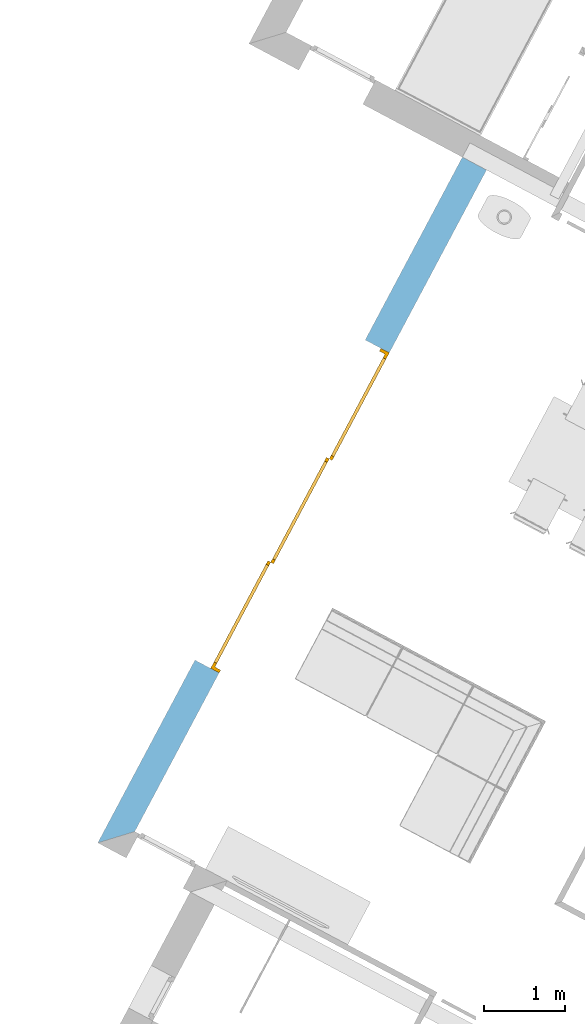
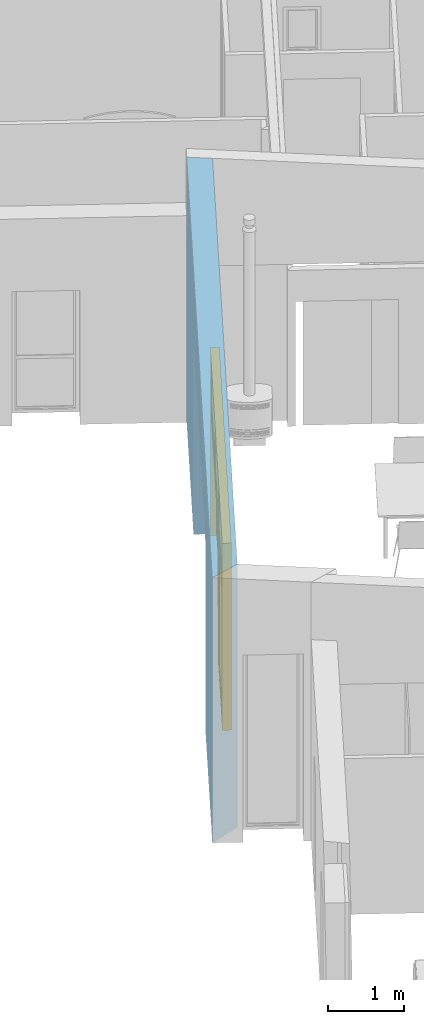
# One storey, part 11 of 27: 1 door, 1 opening, plus 1 element that does not belong to this part.
"""IFC2X3 building model written with IfcOpenShell, lengths in metres."""

import ifcopenshell
import ifcopenshell.guid

model = None  # the IFC model being written
_history = None  # IfcOwnerHistory: only IFC2X3 demands one
_inside = {}  # id of a spatial element -> (the spatial element, [elements in it])
_under = {}  # id of a project, library or spatial element -> (it, [spatial elements below it])
_declared = {}  # id of a project -> (the project, [libraries it declares])
_typed = {}  # id of a type object -> (the type object, [elements of that type])
_made_of = {}  # id of a material, layer set ... -> (it, [elements and type objects made of it])


def new_model(schema):
    """Start an empty IFC model of exactly this schema.

    Asked for "IFC4X3", IfcOpenShell would pick the latest addendum, in which some entities
    have other attributes; the version numbers below select the first issue.
    IFC2X3 requires an IfcOwnerHistory on every rooted entity: one is made here for all.
    """
    global model, _history
    if schema == "IFC4X3":
        model = ifcopenshell.file(schema_version=(4, 3, 0, 0))
    else:
        model = ifcopenshell.file(schema=schema)
    _inside.clear()
    _under.clear()
    _declared.clear()
    _typed.clear()
    _made_of.clear()
    _history = None
    if model.schema == "IFC2X3":
        org = make("IfcOrganization", Name="unknown")
        user = make(
            "IfcPersonAndOrganization",
            ThePerson=make("IfcPerson", FamilyName="unknown"),
            TheOrganization=org,
        )
        app = make(
            "IfcApplication",
            ApplicationDeveloper=org,
            Version="unknown",
            ApplicationFullName="unknown",
            ApplicationIdentifier="unknown",
        )
        _history = make(
            "IfcOwnerHistory",
            OwningUser=user,
            OwningApplication=app,
            ChangeAction="ADDED",
            CreationDate=0,
        )
    return model


def make(cls, **values):
    """One entity of the class cls with the attributes given. An attribute that is None is left unset."""
    return model.create_entity(
        cls, **{name: value for name, value in values.items() if value is not None}
    )


def entity(cls, *values):
    """Any entity or typed value of the class cls, its attributes in the order of the schema. None: left unset."""
    e = model.create_entity(cls)
    for i, value in enumerate(values):
        if value is not None:
            e[i] = value
    return e


def rooted(cls, **values):
    """An entity with a GlobalId (a new one), such as an element, a storey or a relation."""
    return make(cls, GlobalId=ifcopenshell.guid.new(), OwnerHistory=_history, **values)


def si_unit(unit_type, name, prefix=None):
    """IfcSIUnit, for example si_unit("LENGTHUNIT", "METRE", prefix="MILLI")."""
    return make("IfcSIUnit", UnitType=unit_type, Prefix=prefix, Name=name)


def converted_unit(unit_type, name, factor, base, dimensions=None, offset=None):
    """IfcConversionBasedUnit, such as the inch: factor (a typed value) times the base unit."""
    return make(
        "IfcConversionBasedUnit"
        if offset is None
        else "IfcConversionBasedUnitWithOffset",
        ConversionOffset=offset,
        Dimensions=None
        if dimensions is None
        else entity("IfcDimensionalExponents", *dimensions),
        UnitType=unit_type,
        Name=name,
        ConversionFactor=make(
            "IfcMeasureWithUnit", ValueComponent=factor, UnitComponent=base
        ),
    )


def derived_unit(unit_type, elements):
    """IfcDerivedUnit: a product of units, each with its exponent."""
    return make(
        "IfcDerivedUnit",
        Elements=[
            make("IfcDerivedUnitElement", Unit=unit, Exponent=power)
            for unit, power in elements
        ],
        UnitType=unit_type,
    )


def money_unit(currency):
    """IfcMonetaryUnit."""
    return make("IfcMonetaryUnit", Currency=currency)


def assignment(units):
    """IfcUnitAssignment: the units of a project."""
    return None if units is None else make("IfcUnitAssignment", Units=units)


def point(xyz):
    """IfcCartesianPoint."""
    return None if xyz is None else make("IfcCartesianPoint", Coordinates=xyz)


def direction(xyz):
    """IfcDirection."""
    return None if xyz is None else make("IfcDirection", DirectionRatios=xyz)


def frame(location, z_axis=None, x_axis=None):
    """IfcAxis2Placement3D, a coordinate frame: its origin and axes. An axis left out is left unset."""
    return make(
        "IfcAxis2Placement3D",
        Location=point(location),
        Axis=direction(z_axis),
        RefDirection=direction(x_axis),
    )


def frame_2d(location, x_axis=None):
    """IfcAxis2Placement2D, a coordinate frame in the plane: its origin and x axis."""
    return make(
        "IfcAxis2Placement2D", Location=point(location), RefDirection=direction(x_axis)
    )


def origin_with_axes():
    """The frame at (0, 0, 0) with the z axis (0, 0, 1) and the x axis (1, 0, 0) written out."""
    return frame((0.0, 0.0, 0.0), z_axis=(0.0, 0.0, 1.0), x_axis=(1.0, 0.0, 0.0))


def origin_2d_with_axis():
    """The frame at (0, 0) in the plane with the x axis (1, 0) written out."""
    return frame_2d((0.0, 0.0), x_axis=(1.0, 0.0))


def place(relative_to, where):
    """IfcLocalPlacement: puts the frame where relative to a parent placement (None: the world)."""
    return make(
        "IfcLocalPlacement", PlacementRelTo=relative_to, RelativePlacement=where
    )


def context(
    kind, dimensions, precision=None, world=None, true_north=None, identifier=None
):
    """IfcGeometricRepresentationContext, for example the 3D "Model" context."""
    return make(
        "IfcGeometricRepresentationContext",
        ContextIdentifier=identifier,
        ContextType=kind,
        CoordinateSpaceDimension=dimensions,
        Precision=precision,
        WorldCoordinateSystem=world,
        TrueNorth=true_north,
    )


def subcontext(parent, identifier, kind, view, scale=None):
    """IfcGeometricRepresentationSubContext, for example "Body" below "Model"."""
    return make(
        "IfcGeometricRepresentationSubContext",
        ContextIdentifier=identifier,
        ContextType=kind,
        ParentContext=parent,
        TargetScale=scale,
        TargetView=view,
    )


def project(units=None, contexts=None):
    """IfcProject with its units and contexts."""
    return rooted(
        "IfcProject",
        Name="project",
        RepresentationContexts=contexts,
        UnitsInContext=assignment(units),
    )


def spatial(cls, under=None, at=None, **own):
    """A site, building, storey or space (cls), placed at a placement, below another one or the project."""
    s = rooted(cls, ObjectPlacement=at, **own)
    if under is not None:
        _under.setdefault(under.id(), (under, []))[1].append(s)
    return s


def polyline(points):
    """IfcPolyline through the points."""
    return make("IfcPolyline", Points=[point(p) for p in points])


def profile(cls, at=None, kind="AREA", **sizes):
    """A parametric profile (cls). Its sizes go by their IFC names, for example OverallWidth=200.0."""
    return make(cls, ProfileType=kind, Position=at, **sizes)


def rectangle(**sizes):
    """IfcRectangleProfileDef."""
    return profile("IfcRectangleProfileDef", **sizes)


def outline(outer, holes=None, kind="AREA"):
    """IfcArbitraryClosedProfileDef: a profile drawn as a closed curve; with holes, ...WithVoids."""
    if holes is None:
        return make("IfcArbitraryClosedProfileDef", ProfileType=kind, OuterCurve=outer)
    return make(
        "IfcArbitraryProfileDefWithVoids",
        ProfileType=kind,
        OuterCurve=outer,
        InnerCurves=holes,
    )


def extrude(swept, where, along, depth):
    """IfcExtrudedAreaSolid: the profile swept, set in the frame where, extruded along a direction by depth."""
    return make(
        "IfcExtrudedAreaSolid",
        SweptArea=swept,
        Position=where,
        ExtrudedDirection=direction(along),
        Depth=depth,
    )


def clip(a, b, op="DIFFERENCE"):
    """IfcBooleanClippingResult: the solid a cut by the half space b."""
    return make(
        "IfcBooleanClippingResult", Operator=op, FirstOperand=a, SecondOperand=b
    )


def halfspace(plane, agree):
    """IfcHalfSpaceSolid: all space on one side of the plane z = 0 of the frame plane."""
    return make(
        "IfcHalfSpaceSolid",
        BaseSurface=make("IfcPlane", Position=plane),
        AgreementFlag=agree,
    )


def faces_of(points, faces, orient=None, outer=None):
    """IfcFace entities. A face is a list of loops; a loop is a list of indices into points, from 0.

    orient and outer hold one flag for each loop. By default every Orientation is true, the
    first loop of a face is its IfcFaceOuterBound and the others are IfcFaceBound.
    """
    made = []
    for i, loops in enumerate(faces):
        bounds = []
        for j, loop in enumerate(loops):
            is_outer = j == 0 if outer is None else outer[i][j]
            bounds.append(
                make(
                    "IfcFaceOuterBound" if is_outer else "IfcFaceBound",
                    Bound=make("IfcPolyLoop", Polygon=[points[k] for k in loop]),
                    Orientation=True if orient is None else orient[i][j],
                )
            )
        made.append(make("IfcFace", Bounds=bounds))
    return made


def open_shell(faces, orient=None, outer=None):
    """The faces of one IfcOpenShell. surface_model builds it on its shared points."""
    return ("IfcOpenShell", faces, orient, outer)


def faceted_brep(points, faces, orient=None, outer=None, voids=None):
    """IfcFacetedBrep: a solid bounded by flat faces; with voids (closed shells), ...WithVoids."""
    shared = [point(p) for p in points]
    hull = make("IfcClosedShell", CfsFaces=faces_of(shared, faces, orient, outer))
    if voids is None:
        return make("IfcFacetedBrep", Outer=hull)
    return make(
        "IfcFacetedBrepWithVoids",
        Outer=hull,
        Voids=[
            make(cls, CfsFaces=faces_of(shared, fs, o, b)) for cls, fs, o, b in voids
        ],
    )


def surface_model(cls, points, shells):
    """IfcFaceBasedSurfaceModel or IfcShellBasedSurfaceModel (cls): surfaces that need not close."""
    shared = [point(p) for p in points]
    made = [make(c, CfsFaces=faces_of(shared, fs, o, b)) for c, fs, o, b in shells]
    if cls == "IfcFaceBasedSurfaceModel":
        return make(cls, FbsmFaces=made)
    return make(cls, SbsmBoundary=made)


def shape(context_of_items, identifier, shape_type, items):
    """IfcShapeRepresentation: the items that make up one representation, for example the "Body"."""
    return make(
        "IfcShapeRepresentation",
        ContextOfItems=context_of_items,
        RepresentationIdentifier=identifier,
        RepresentationType=shape_type,
        Items=items,
    )


def material(Name=None, Category=None):
    """IfcMaterial."""
    return make("IfcMaterial", Name=Name, Category=Category)


def layer(
    of_material, thickness, ventilated=None, Name=None, Category=None, Priority=None
):
    """IfcMaterialLayer: one layer of a wall or slab, of a material (None: an air gap)."""
    return make(
        "IfcMaterialLayer",
        Material=of_material,
        LayerThickness=thickness,
        IsVentilated=ventilated,
        Name=Name,
        Category=Category,
        Priority=Priority,
    )


def layer_set(layers, Name=None):
    """IfcMaterialLayerSet."""
    return make("IfcMaterialLayerSet", MaterialLayers=layers, LayerSetName=Name)


def layer_usage(for_layer_set, set_direction, sense, offset, extent=None):
    """IfcMaterialLayerSetUsage: how a layer set lies in its element."""
    return make(
        "IfcMaterialLayerSetUsage",
        ForLayerSet=for_layer_set,
        LayerSetDirection=set_direction,
        DirectionSense=sense,
        OffsetFromReferenceLine=offset,
        ReferenceExtent=extent,
    )


def made_of(thing, what):
    """Note that an element or type object is made of a material, layer set ...; save() writes the relation."""
    if what is not None:
        _made_of.setdefault(what.id(), (what, []))[1].append(thing)
    return thing


def type_object(cls, material=None, **own):
    """A type object (cls), such as IfcWallType, which elements share."""
    return made_of(rooted(cls, **own), material)


def element(
    cls,
    number,
    at=None,
    inside=None,
    cuts=None,
    type_object=None,
    material=None,
    context=None,
    identifier="Body",
    shape_type=None,
    held_by="IfcProductDefinitionShape",
    body=None,
    shapes=None,
    **own,
):
    """One element of the class cls, such as IfcWall. Its Tag is "e" and its number.

    at: its placement. inside: the storey or other place that contains it. cuts: it is an
    opening in that element (IfcRelVoidsElement). A single representation is given by context,
    identifier, shape_type and body (its items); several are given by shapes. held_by: the class
    of the entity that holds the representations. save() writes the other relations.
    """
    e = rooted(cls, Tag="e%d" % number, ObjectPlacement=at, **own)
    if body is not None:
        shapes = [shape(context, identifier, shape_type, body)]
    if shapes is not None:
        e.Representation = make(held_by, Representations=shapes)
    if inside is not None:
        _inside.setdefault(inside.id(), (inside, []))[1].append(e)
    if cuts is not None:
        rooted(
            "IfcRelVoidsElement", RelatingBuildingElement=cuts, RelatedOpeningElement=e
        )
    if type_object is not None:
        _typed.setdefault(type_object.id(), (type_object, []))[1].append(e)
    return made_of(e, material)


def fill(opening, filler):
    """IfcRelFillsElement: the door or window that sits in an opening."""
    return rooted(
        "IfcRelFillsElement",
        RelatingOpeningElement=opening,
        RelatedBuildingElement=filler,
    )


def aggregate(whole, parts):
    """IfcRelAggregates: a whole, such as a stair, and the parts it consists of."""
    return rooted("IfcRelAggregates", RelatingObject=whole, RelatedObjects=parts)


def save(model, path):
    """Write the relations noted so far, then the file.

    IfcRelAggregates (storeys below a building ...), IfcRelContainedInSpatialStructure (elements
    in a storey), IfcRelDefinesByType, IfcRelAssociatesMaterial and IfcRelDeclares: one each for
    every whole, place, type object, material and project.
    """
    for whole, parts in _under.values():
        aggregate(whole, parts)
    for where, things in _inside.values():
        rooted(
            "IfcRelContainedInSpatialStructure",
            RelatedElements=things,
            RelatingStructure=where,
        )
    for kind, things in _typed.values():
        rooted("IfcRelDefinesByType", RelatedObjects=things, RelatingType=kind)
    for what, things in _made_of.values():
        rooted("IfcRelAssociatesMaterial", RelatedObjects=things, RelatingMaterial=what)
    for by, libraries in _declared.values():
        rooted("IfcRelDeclares", RelatingContext=by, RelatedDefinitions=libraries)
    model.write(path)


model = new_model("IFC2X3")

# Units and contexts
model_context = context("Model", 3, precision=1e-05, world=origin_with_axes(), true_north=direction((0.0, 1.0)))
body_context = subcontext(model_context, "Body", "Model", "MODEL_VIEW")
ifc_project = project(units=[si_unit("LENGTHUNIT", "METRE"), si_unit("AREAUNIT", "SQUARE_METRE"), si_unit("VOLUMEUNIT", "CUBIC_METRE"), converted_unit("PLANEANGLEUNIT", "DEGREE", entity("IfcPlaneAngleMeasure", 0.0174532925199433), si_unit("PLANEANGLEUNIT", "RADIAN"), dimensions=[0, 0, 0, 0, 0, 0, 0]), money_unit("CHF"), converted_unit("TIMEUNIT", "Year", entity("IfcTimeMeasure", 31557600.0), si_unit("TIMEUNIT", "SECOND"), dimensions=[0, 0, 1, 0, 0, 0, 0]), si_unit("MASSUNIT", "GRAM", prefix="KILO"), si_unit("THERMODYNAMICTEMPERATUREUNIT", "DEGREE_CELSIUS"), si_unit("LUMINOUSINTENSITYUNIT", "LUMEN"), si_unit("ENERGYUNIT", "JOULE", prefix="MEGA"), derived_unit("THERMALCONDUCTANCEUNIT", [(si_unit("POWERUNIT", "WATT"), 1), (si_unit("LENGTHUNIT", "METRE"), -1), (si_unit("THERMODYNAMICTEMPERATUREUNIT", "KELVIN"), -1)]), derived_unit("SPECIFICHEATCAPACITYUNIT", [(si_unit("ENERGYUNIT", "JOULE"), 1), (si_unit("MASSUNIT", "GRAM", prefix="KILO"), -1), (si_unit("THERMODYNAMICTEMPERATUREUNIT", "KELVIN"), -1)]), derived_unit("MASSDENSITYUNIT", [(si_unit("MASSUNIT", "GRAM", prefix="KILO"), 1), (si_unit("VOLUMEUNIT", "CUBIC_METRE"), -1)])], contexts=[model_context])

# Site, building, storey
site_placement = place(None, frame((0.0, 0.0, 0.0), z_axis=(0.0, 0.0, 1.0), x_axis=(-0.4694715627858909, -0.8829475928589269, 0.0)))
site = spatial("IfcSite", under=ifc_project, at=site_placement, Name="Site", CompositionType="ELEMENT")
building_placement = place(site_placement, origin_with_axes())
building = spatial("IfcBuilding", under=site, at=building_placement, Name="Bâtiment", CompositionType="ELEMENT")
storey_placement = place(building_placement, origin_with_axes())
storey = spatial("IfcBuildingStorey", under=building, at=storey_placement, Name="RDC", CompositionType="ELEMENT", Elevation=0.0)

# Wall, opening, door
ifc_material_1 = material(Name="Maçonnerie 290464332")
ifc_layer_1 = layer(ifc_material_1, 0.2, ventilated="UNKNOWN")
ifc_material_2 = material(Name="Isolation 272048125")
ifc_layer_2 = layer(ifc_material_2, 0.14, ventilated="UNKNOWN")
ifc_layer_set = layer_set([ifc_layer_1, ifc_layer_2], Name="MUR EXT 34")
ifc_layer_usage = layer_usage(ifc_layer_set, "AXIS2", "POSITIVE", 0.0)
wall_type = type_object("IfcWallType", Name="MUR EXT 34 340", PredefinedType="NOTDEFINED")
wall_placement = place(storey_placement, frame((133.8895710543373, -837.1945991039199, 0.0), z_axis=(0.0, 0.0, 1.0), x_axis=(1.0, 0.0, 0.0)))
wall = element("IfcWallStandardCase", 1, at=wall_placement, inside=storey, type_object=wall_type, material=ifc_layer_usage, Name="Mur-392", context=body_context, shape_type="Clipping", body=[
    clip(extrude(outline(polyline([(0.0, 0.0), (9.640000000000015, 0.0), (9.300000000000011, 0.3400000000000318), (0.0, 0.3400000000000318), (0.0, 0.0)])), origin_with_axes(), (0.0, 0.0, 1.0), 5.0), halfspace(frame((0.0, 0.3379968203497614, 4.224960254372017), z_axis=(0.0, -0.07974522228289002, -0.9968152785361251), x_axis=(0.0, 0.9968152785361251, -0.07974522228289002)), True)),
])
opening_placement = place(wall_placement, frame((4.819999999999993, 0.0, 0.0), z_axis=(0.0, 0.0, 1.0), x_axis=(1.0, 0.0, 0.0)))
opening = element("IfcOpeningElement", 2, at=opening_placement, cuts=wall, Name="porte 77", context=body_context, shape_type="SweptSolid", body=[
    extrude(rectangle(XDim=4.5, YDim=3.0, at=origin_2d_with_axis()), frame((0.0, -0.3400000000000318, 1.5), z_axis=(0.0, -1.0, 0.0), x_axis=(-1.0, 0.0, 0.0)), (0.0, 0.0, -1.0), 1.02),
])
door_style = type_object("IfcDoorStyle", Name="Porte coulissante avec imposte 27", ConstructionType="NOTDEFINED", OperationType="USERDEFINED", ParameterTakesPrecedence=False, Sizeable=False)
door_placement = place(opening_placement, frame((-2.250000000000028, 0.0, 0.0), z_axis=(0.0, 0.0, 1.0), x_axis=(1.0, 0.0, 0.0)))
door = element("IfcDoor", 3, at=door_placement, inside=storey, type_object=door_style, Name="porte 77", OverallHeight=3.0, OverallWidth=4.5, context=body_context, shape_type="SurfaceModel", body=[
    faceted_brep([(4.5, 0.3400000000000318, 0.0), (4.5, 0.2200000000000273, 0.0), (4.460000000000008, 0.2200000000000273, 0.0), (4.460000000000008, 0.3400000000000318, 0.0), (4.5, 0.3400000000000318, 2.96), (4.5, 0.2200000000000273, 2.96), (4.460000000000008, 0.2200000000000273, 2.96), (4.460000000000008, 0.2200000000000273, 2.19), (4.460000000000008, 0.2200000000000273, 2.15), (4.460000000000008, 0.3400000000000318, 2.15), (4.460000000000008, 0.3400000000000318, 2.19), (4.460000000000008, 0.3400000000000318, 2.96)], [[[0, 1, 2, 3]], [[4, 5, 1, 0]], [[1, 5, 6, 7, 8, 2]], [[3, 2, 8, 9]], [[0, 3, 9, 10, 11, 4]], [[11, 6, 5, 4]], [[10, 7, 6, 11]], [[9, 8, 7, 10]]]),
    faceted_brep([(0.0, 0.3400000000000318, 0.0), (0.0, 0.2200000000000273, 0.0), (0.0, 0.2200000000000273, 2.96), (0.0, 0.3400000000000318, 2.96), (0.03999999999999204, 0.3400000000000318, 0.0), (0.03999999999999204, 0.2200000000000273, 0.0), (0.03999999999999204, 0.2200000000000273, 2.15), (0.03999999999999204, 0.2200000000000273, 2.19), (0.03999999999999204, 0.2200000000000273, 2.96), (0.03999999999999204, 0.3400000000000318, 2.96), (0.03999999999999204, 0.3400000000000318, 2.19), (0.03999999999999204, 0.3400000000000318, 2.15)], [[[0, 1, 2, 3]], [[4, 5, 1, 0]], [[1, 5, 6, 7, 8, 2]], [[3, 2, 8, 9]], [[0, 3, 9, 10, 11, 4]], [[11, 6, 5, 4]], [[10, 7, 6, 11]], [[9, 8, 7, 10]]]),
    faceted_brep([(4.5, 0.3400000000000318, 3.0), (4.5, 0.2200000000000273, 3.0), (4.5, 0.2200000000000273, 2.96), (4.5, 0.3400000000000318, 2.96), (0.0, 0.3400000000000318, 3.0), (0.0, 0.2200000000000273, 3.0), (0.0, 0.2200000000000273, 2.96), (0.03999999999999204, 0.2200000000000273, 2.96), (4.460000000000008, 0.2200000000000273, 2.96), (4.460000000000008, 0.3400000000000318, 2.96), (0.03999999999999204, 0.3400000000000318, 2.96), (0.0, 0.3400000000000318, 2.96)], [[[0, 1, 2, 3]], [[4, 5, 1, 0]], [[1, 5, 6, 7, 8, 2]], [[3, 2, 8, 9]], [[0, 3, 9, 10, 11, 4]], [[11, 6, 5, 4]], [[10, 7, 6, 11]], [[9, 8, 7, 10]]]),
    faceted_brep([(4.460000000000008, 0.3400000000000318, 2.19), (4.460000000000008, 0.2200000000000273, 2.19), (4.460000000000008, 0.2200000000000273, 2.15), (4.460000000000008, 0.3400000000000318, 2.15), (0.03999999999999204, 0.3400000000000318, 2.19), (0.03999999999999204, 0.2200000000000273, 2.19), (0.03999999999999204, 0.2200000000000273, 2.15), (0.03999999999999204, 0.3400000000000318, 2.15)], [[[0, 1, 2, 3]], [[4, 5, 1, 0]], [[1, 5, 6, 2]], [[3, 2, 6, 7]], [[0, 3, 7, 4]], [[7, 6, 5, 4]]]),
    faceted_brep([(0.03999999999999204, 0.3400000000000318, 0.04999999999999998), (0.09000000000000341, 0.3400000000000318, 0.04999999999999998), (0.09000000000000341, 0.3000000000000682, 0.04999999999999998), (0.03999999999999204, 0.3000000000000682, 0.04999999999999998), (0.03999999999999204, 0.3400000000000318, 2.1), (0.09000000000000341, 0.3400000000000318, 2.1), (0.09000000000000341, 0.3000000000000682, 2.1), (0.03999999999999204, 0.3000000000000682, 2.1)], [[[0, 1, 2, 3]], [[0, 4, 5, 1]], [[1, 5, 6, 2]], [[3, 2, 6, 7]], [[4, 0, 3, 7]], [[5, 4, 7, 6]]]),
    faceted_brep([(1.513333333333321, 0.3400000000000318, 0.04999999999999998), (1.513333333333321, 0.3400000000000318, 2.1), (1.513333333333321, 0.3000000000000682, 2.1), (1.513333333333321, 0.3000000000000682, 0.04999999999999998), (1.463333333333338, 0.3400000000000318, 0.04999999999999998), (1.463333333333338, 0.3400000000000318, 2.1), (1.463333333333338, 0.3000000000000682, 2.1), (1.463333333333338, 0.3000000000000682, 0.04999999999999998)], [[[0, 1, 2, 3]], [[0, 4, 5, 1]], [[1, 5, 6, 2]], [[3, 2, 6, 7]], [[4, 0, 3, 7]], [[5, 4, 7, 6]]]),
    faceted_brep([(0.03999999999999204, 0.3400000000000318, 0.0), (1.513333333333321, 0.3400000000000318, 0.0), (1.513333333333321, 0.3000000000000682, 0.0), (0.03999999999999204, 0.3000000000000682, 0.0), (0.03999999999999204, 0.3400000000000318, 0.04999999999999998), (0.09000000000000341, 0.3400000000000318, 0.04999999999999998), (1.463333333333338, 0.3400000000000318, 0.04999999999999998), (1.513333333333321, 0.3400000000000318, 0.04999999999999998), (1.513333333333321, 0.3000000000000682, 0.04999999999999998), (1.463333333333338, 0.3000000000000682, 0.04999999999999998), (0.09000000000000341, 0.3000000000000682, 0.04999999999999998), (0.03999999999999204, 0.3000000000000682, 0.04999999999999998)], [[[0, 1, 2, 3]], [[0, 4, 5, 6, 7, 1]], [[1, 7, 8, 2]], [[3, 2, 8, 9, 10, 11]], [[4, 0, 3, 11]], [[5, 4, 11, 10]], [[6, 5, 10, 9]], [[7, 6, 9, 8]]]),
    faceted_brep([(0.03999999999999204, 0.3400000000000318, 2.15), (0.03999999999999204, 0.3400000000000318, 2.1), (0.03999999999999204, 0.3000000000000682, 2.1), (0.03999999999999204, 0.3000000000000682, 2.15), (1.513333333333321, 0.3400000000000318, 2.15), (1.513333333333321, 0.3400000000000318, 2.1), (1.463333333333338, 0.3400000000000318, 2.1), (0.09000000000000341, 0.3400000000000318, 2.1), (0.09000000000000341, 0.3000000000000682, 2.1), (1.463333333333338, 0.3000000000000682, 2.1), (1.513333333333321, 0.3000000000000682, 2.1), (1.513333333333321, 0.3000000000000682, 2.15)], [[[0, 1, 2, 3]], [[0, 4, 5, 6, 7, 1]], [[1, 7, 8, 2]], [[3, 2, 8, 9, 10, 11]], [[4, 0, 3, 11]], [[5, 4, 11, 10]], [[6, 5, 10, 9]], [[7, 6, 9, 8]]]),
    surface_model("IfcShellBasedSurfaceModel", [(0.09000000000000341, 0.3260000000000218, 0.04999999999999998), (0.09000000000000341, 0.3260000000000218, 2.1), (1.463333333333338, 0.3260000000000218, 2.1), (1.463333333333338, 0.3260000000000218, 0.04999999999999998)], [open_shell([[[0, 1, 2, 3]]])]),
    surface_model("IfcShellBasedSurfaceModel", [(0.09000000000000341, 0.3140000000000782, 0.04999999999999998), (1.463333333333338, 0.3140000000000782, 0.04999999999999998), (1.463333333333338, 0.3140000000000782, 2.1), (0.09000000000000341, 0.3140000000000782, 2.1)], [open_shell([[[0, 1, 2, 3]]])]),
    faceted_brep([(1.513333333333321, 0.3000000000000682, 0.04999999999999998), (1.563333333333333, 0.3000000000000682, 0.04999999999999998), (1.563333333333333, 0.2599999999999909, 0.04999999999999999), (1.513333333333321, 0.2599999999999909, 0.04999999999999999), (1.513333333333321, 0.3000000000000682, 2.1), (1.563333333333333, 0.3000000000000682, 2.1), (1.563333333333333, 0.2599999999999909, 2.1), (1.513333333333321, 0.2599999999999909, 2.1)], [[[0, 1, 2, 3]], [[0, 4, 5, 1]], [[1, 5, 6, 2]], [[3, 2, 6, 7]], [[4, 0, 3, 7]], [[5, 4, 7, 6]]]),
    faceted_brep([(2.986666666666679, 0.3000000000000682, 0.04999999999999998), (2.986666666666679, 0.3000000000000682, 2.1), (2.986666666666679, 0.2599999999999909, 2.1), (2.986666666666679, 0.2599999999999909, 0.04999999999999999), (2.936666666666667, 0.3000000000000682, 0.04999999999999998), (2.936666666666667, 0.3000000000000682, 2.1), (2.936666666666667, 0.2599999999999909, 2.1), (2.936666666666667, 0.2599999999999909, 0.04999999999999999)], [[[0, 1, 2, 3]], [[0, 4, 5, 1]], [[1, 5, 6, 2]], [[3, 2, 6, 7]], [[4, 0, 3, 7]], [[5, 4, 7, 6]]]),
    faceted_brep([(1.513333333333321, 0.3000000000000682, 0.0), (2.986666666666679, 0.3000000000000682, 0.0), (2.986666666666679, 0.2599999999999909, 0.0), (1.513333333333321, 0.2599999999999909, 0.0), (1.513333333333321, 0.3000000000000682, 0.04999999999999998), (1.563333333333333, 0.3000000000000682, 0.04999999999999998), (2.936666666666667, 0.3000000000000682, 0.04999999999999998), (2.986666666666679, 0.3000000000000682, 0.04999999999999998), (2.986666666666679, 0.2599999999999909, 0.04999999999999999), (2.936666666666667, 0.2599999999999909, 0.04999999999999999), (1.563333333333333, 0.2599999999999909, 0.04999999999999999), (1.513333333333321, 0.2599999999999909, 0.04999999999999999)], [[[0, 1, 2, 3]], [[0, 4, 5, 6, 7, 1]], [[1, 7, 8, 2]], [[3, 2, 8, 9, 10, 11]], [[4, 0, 3, 11]], [[5, 4, 11, 10]], [[6, 5, 10, 9]], [[7, 6, 9, 8]]]),
    faceted_brep([(1.513333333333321, 0.3000000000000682, 2.15), (1.513333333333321, 0.3000000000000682, 2.1), (1.513333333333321, 0.2599999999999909, 2.1), (1.513333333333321, 0.2599999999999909, 2.15), (2.986666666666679, 0.3000000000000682, 2.15), (2.986666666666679, 0.3000000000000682, 2.1), (2.936666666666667, 0.3000000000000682, 2.1), (1.563333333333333, 0.3000000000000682, 2.1), (1.563333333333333, 0.2599999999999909, 2.1), (2.936666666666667, 0.2599999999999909, 2.1), (2.986666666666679, 0.2599999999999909, 2.1), (2.986666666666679, 0.2599999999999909, 2.15)], [[[0, 1, 2, 3]], [[0, 4, 5, 6, 7, 1]], [[1, 7, 8, 2]], [[3, 2, 8, 9, 10, 11]], [[4, 0, 3, 11]], [[5, 4, 11, 10]], [[6, 5, 10, 9]], [[7, 6, 9, 8]]]),
    surface_model("IfcShellBasedSurfaceModel", [(1.563333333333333, 0.2860000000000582, 0.04999999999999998), (1.563333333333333, 0.2860000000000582, 2.1), (2.936666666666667, 0.2860000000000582, 2.1), (2.936666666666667, 0.2860000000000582, 0.04999999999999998)], [open_shell([[[0, 1, 2, 3]]])]),
    surface_model("IfcShellBasedSurfaceModel", [(1.563333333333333, 0.2740000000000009, 0.04999999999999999), (2.936666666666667, 0.2740000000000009, 0.04999999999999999), (2.936666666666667, 0.2740000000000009, 2.1), (1.563333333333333, 0.2740000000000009, 2.1)], [open_shell([[[0, 1, 2, 3]]])]),
    faceted_brep([(2.986666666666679, 0.2599999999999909, 0.04999999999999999), (3.036666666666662, 0.2599999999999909, 0.04999999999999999), (3.036666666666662, 0.2200000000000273, 0.04999999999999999), (2.986666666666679, 0.2200000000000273, 0.04999999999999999), (2.986666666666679, 0.2599999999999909, 2.1), (3.036666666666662, 0.2599999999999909, 2.1), (3.036666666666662, 0.2200000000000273, 2.1), (2.986666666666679, 0.2200000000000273, 2.1)], [[[0, 1, 2, 3]], [[0, 4, 5, 1]], [[1, 5, 6, 2]], [[3, 2, 6, 7]], [[4, 0, 3, 7]], [[5, 4, 7, 6]]]),
    faceted_brep([(4.460000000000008, 0.2599999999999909, 0.04999999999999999), (4.460000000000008, 0.2599999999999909, 2.1), (4.460000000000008, 0.2200000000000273, 2.1), (4.460000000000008, 0.2200000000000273, 0.04999999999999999), (4.409999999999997, 0.2599999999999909, 0.04999999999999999), (4.409999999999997, 0.2599999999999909, 2.1), (4.409999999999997, 0.2200000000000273, 2.1), (4.409999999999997, 0.2200000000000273, 0.04999999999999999)], [[[0, 1, 2, 3]], [[0, 4, 5, 1]], [[1, 5, 6, 2]], [[3, 2, 6, 7]], [[4, 0, 3, 7]], [[5, 4, 7, 6]]]),
    faceted_brep([(2.986666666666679, 0.2599999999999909, 0.0), (4.460000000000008, 0.2599999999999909, 0.0), (4.460000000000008, 0.2200000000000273, 0.0), (2.986666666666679, 0.2200000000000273, 0.0), (2.986666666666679, 0.2599999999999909, 0.04999999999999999), (3.036666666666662, 0.2599999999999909, 0.04999999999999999), (4.409999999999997, 0.2599999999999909, 0.04999999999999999), (4.460000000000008, 0.2599999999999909, 0.04999999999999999), (4.460000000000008, 0.2200000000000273, 0.04999999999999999), (4.409999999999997, 0.2200000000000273, 0.04999999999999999), (3.036666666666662, 0.2200000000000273, 0.04999999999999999), (2.986666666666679, 0.2200000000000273, 0.04999999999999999)], [[[0, 1, 2, 3]], [[0, 4, 5, 6, 7, 1]], [[1, 7, 8, 2]], [[3, 2, 8, 9, 10, 11]], [[4, 0, 3, 11]], [[5, 4, 11, 10]], [[6, 5, 10, 9]], [[7, 6, 9, 8]]]),
    faceted_brep([(2.986666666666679, 0.2599999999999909, 2.15), (2.986666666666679, 0.2599999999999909, 2.1), (2.986666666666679, 0.2200000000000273, 2.1), (2.986666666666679, 0.2200000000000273, 2.15), (4.460000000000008, 0.2599999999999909, 2.15), (4.460000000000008, 0.2599999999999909, 2.1), (4.409999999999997, 0.2599999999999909, 2.1), (3.036666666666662, 0.2599999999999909, 2.1), (3.036666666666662, 0.2200000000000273, 2.1), (4.409999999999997, 0.2200000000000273, 2.1), (4.460000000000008, 0.2200000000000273, 2.1), (4.460000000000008, 0.2200000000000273, 2.15)], [[[0, 1, 2, 3]], [[0, 4, 5, 6, 7, 1]], [[1, 7, 8, 2]], [[3, 2, 8, 9, 10, 11]], [[4, 0, 3, 11]], [[5, 4, 11, 10]], [[6, 5, 10, 9]], [[7, 6, 9, 8]]]),
    surface_model("IfcShellBasedSurfaceModel", [(3.036666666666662, 0.2459999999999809, 0.04999999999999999), (3.036666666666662, 0.2459999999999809, 2.1), (4.409999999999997, 0.2459999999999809, 2.1), (4.409999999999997, 0.2459999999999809, 0.04999999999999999)], [open_shell([[[0, 1, 2, 3]]])]),
    surface_model("IfcShellBasedSurfaceModel", [(3.036666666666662, 0.2340000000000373, 0.04999999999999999), (4.409999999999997, 0.2340000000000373, 0.04999999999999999), (4.409999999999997, 0.2340000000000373, 2.1), (3.036666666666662, 0.2340000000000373, 2.1)], [open_shell([[[0, 1, 2, 3]]])]),
    surface_model("IfcShellBasedSurfaceModel", [(3.02000000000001, 0.2440000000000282, 2.19), (3.02000000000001, 0.2440000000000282, 2.96), (4.460000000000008, 0.2440000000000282, 2.96), (4.460000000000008, 0.2440000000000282, 2.19)], [open_shell([[[0, 1, 2, 3]]])]),
    surface_model("IfcShellBasedSurfaceModel", [(3.02000000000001, 0.2320000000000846, 2.19), (4.460000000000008, 0.2320000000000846, 2.19), (4.460000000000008, 0.2320000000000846, 2.96), (3.02000000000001, 0.2320000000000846, 2.96)], [open_shell([[[0, 1, 2, 3]]])]),
    surface_model("IfcShellBasedSurfaceModel", [(1.530000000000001, 0.2440000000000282, 2.19), (1.530000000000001, 0.2440000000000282, 2.96), (2.969999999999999, 0.2440000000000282, 2.96), (2.969999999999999, 0.2440000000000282, 2.19)], [open_shell([[[0, 1, 2, 3]]])]),
    surface_model("IfcShellBasedSurfaceModel", [(1.530000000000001, 0.2320000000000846, 2.19), (2.969999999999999, 0.2320000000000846, 2.19), (2.969999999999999, 0.2320000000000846, 2.96), (1.530000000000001, 0.2320000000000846, 2.96)], [open_shell([[[0, 1, 2, 3]]])]),
    surface_model("IfcShellBasedSurfaceModel", [(0.03999999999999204, 0.2440000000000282, 2.19), (0.03999999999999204, 0.2440000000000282, 2.96), (1.47999999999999, 0.2440000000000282, 2.96), (1.47999999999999, 0.2440000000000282, 2.19)], [open_shell([[[0, 1, 2, 3]]])]),
    surface_model("IfcShellBasedSurfaceModel", [(0.03999999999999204, 0.2320000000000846, 2.19), (1.47999999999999, 0.2320000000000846, 2.19), (1.47999999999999, 0.2320000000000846, 2.96), (0.03999999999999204, 0.2320000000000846, 2.96)], [open_shell([[[0, 1, 2, 3]]])]),
    faceted_brep([(3.02000000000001, 0.2504999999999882, 2.19), (3.02000000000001, 0.2255000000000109, 2.19), (2.969999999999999, 0.2255000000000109, 2.19), (2.969999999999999, 0.2504999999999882, 2.19), (3.02000000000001, 0.2504999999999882, 2.96), (3.02000000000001, 0.2255000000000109, 2.96), (2.969999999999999, 0.2255000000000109, 2.96), (2.969999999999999, 0.2504999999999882, 2.96)], [[[0, 1, 2, 3]], [[4, 5, 1, 0]], [[1, 5, 6, 2]], [[3, 2, 6, 7]], [[0, 3, 7, 4]], [[7, 6, 5, 4]]]),
    faceted_brep([(1.530000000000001, 0.2504999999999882, 2.19), (1.530000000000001, 0.2255000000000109, 2.19), (1.47999999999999, 0.2255000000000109, 2.19), (1.47999999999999, 0.2504999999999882, 2.19), (1.530000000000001, 0.2504999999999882, 2.96), (1.530000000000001, 0.2255000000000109, 2.96), (1.47999999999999, 0.2255000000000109, 2.96), (1.47999999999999, 0.2504999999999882, 2.96)], [[[0, 1, 2, 3]], [[4, 5, 1, 0]], [[1, 5, 6, 2]], [[3, 2, 6, 7]], [[0, 3, 7, 4]], [[7, 6, 5, 4]]]),
])
fill(opening, door)

save(model, "model.ifc")
